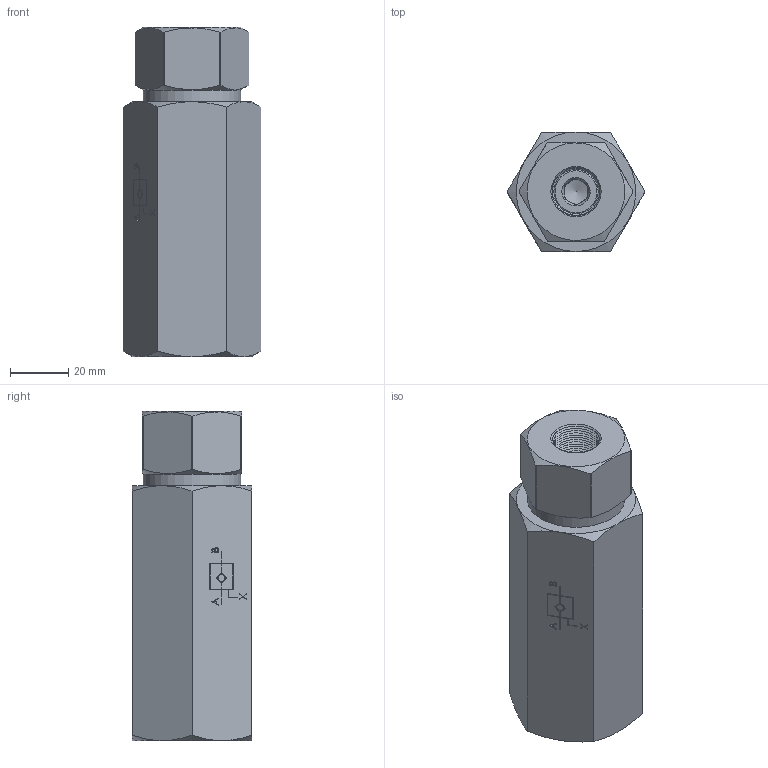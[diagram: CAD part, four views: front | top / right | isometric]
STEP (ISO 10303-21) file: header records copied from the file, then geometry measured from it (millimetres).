
FILE_DESCRIPTION (( 'STEP AP214' ), '1' );
FILE_NAME ('2257-7-38.STEP', '2025-01-23T10:57:25', ( '' ), ( '' ), 'SwSTEP 2.0', 'SolidWorks 2024', '' );
FILE_SCHEMA (( 'AUTOMOTIVE_DESIGN' ));
Length unit declared in the file: millimetre
Products named in the file (9): MOLLA 2 BAR  257-6.009.00.0-38_COMPRESSA; CORPO VALVOLA 2257-7.001.00.0-38; 2257-7-38; PISTONE PILOTAGGIO 2257-7.019.00.0-38; CONNESSIONE UNIDIREZIONALE 2257-7.033.00.0-38; ASSIEME 2257-7.041.00.0-38; VALVOLA TENUTA METALLICA 2257-5.008.00.1-38; OR 3100; FONDELLO FILETTATO 2257-5.010.00.0-38
Assembly tree (8 placements, depth 3):
  2257-7-38
    ASSIEME 2257-7.041.00.0-38
      CONNESSIONE UNIDIREZIONALE 2257-7.033.00.0-38
      FONDELLO FILETTATO 2257-5.010.00.0-38
      VALVOLA TENUTA METALLICA 2257-5.008.00.1-38
      MOLLA 2 BAR  257-6.009.00.0-38_COMPRESSA
    CORPO VALVOLA 2257-7.001.00.0-38
    PISTONE PILOTAGGIO 2257-7.019.00.0-38
    OR 3100
Bounding box: 47.34 x 41 x 113 mm (x, y, z)
Volume: 130993 mm3; surface area: 42936.8 mm2
Topology: 7 solids, 7 shells, 662 faces, 1571 edges, 977 vertices
Faces by surface type: plane 271, cone 233, bspline 86, cylinder 69, torus 3
Full cylindrical faces by diameter (mm): 2.52 x1, 3.5 x6, 4.5 x5, 8.5 x1, 9 x2, 11 x1, 11.8 x1, 12.3 x3, 12.5 x1, 13 x5, 14 x4, 14.5 x6, 15 x1, 15.25 x1, 17.2 x1, 19 x1, 20.5 x1, 23.2 x3, 24 x5, 25 x2, 25.5 x2, 33.5 x1
Entity records: 24083 total; most frequent: CARTESIAN_POINT 10390, DIRECTION 2524, ORIENTED_EDGE 2520, EDGE_CURVE 1260, EDGE_LOOP 1014, AXIS2_PLACEMENT_3D 940, VERTEX_POINT 936, FACE_OUTER_BOUND 719
